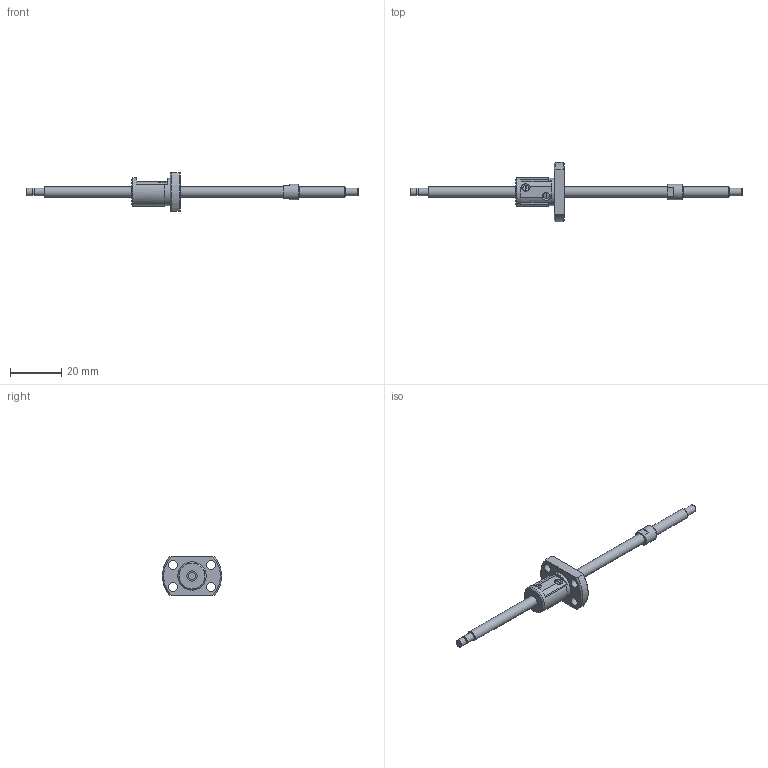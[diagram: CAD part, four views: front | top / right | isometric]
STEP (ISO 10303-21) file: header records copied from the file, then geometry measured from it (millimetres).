
FILE_DESCRIPTION(/* description */ ('STEP AP214'),/* implementation_level */ '2;1');
FILE_NAME(/* name */ 'SRT0402-089R129C10B0X(34Processing)',/* time_stamp */ '2026-08-04T17:49:53+02:00',/* author */ ('License CC BY-ND 4.0'),/* organization */ ('CADENAS'),/* preprocessor_version */ 'ST-DEVELOPER v20',/* originating_system */ 'PARTsolutions',/* authorisation */ ' ');
FILE_SCHEMA (('AUTOMOTIVE_DESIGN {1 0 10303 214 3 1 1}'));
Length unit declared in the file: millimetre
Products named in the file (3): SRT0402-089R129C10B0X(34Processing); SRT0402-89R155BCt10Processing7Shaft; SRT0402Nut
Assembly tree (2 placements, depth 2):
  SRT0402-089R129C10B0X(34Processing)
    SRT0402-89R155BCt10Processing7Shaft
    SRT0402Nut
Bounding box: 129 x 22.93 x 15 mm (x, y, z)
Volume: 3801.4 mm3; surface area: 3415.8 mm2
Topology: 2 solids, 2 shells, 66 faces, 162 edges, 107 vertices
Faces by surface type: plane 33, cylinder 20, cone 12, torus 1
Full cylindrical faces by diameter (mm): 1 x2, 2.7 x1, 3 x3, 3.4 x4, 4 x3, 6 x1, 10.6 x1, 11 x1
Entity records: 1851 total; most frequent: CARTESIAN_POINT 349, DIRECTION 308, ORIENTED_EDGE 248, AXIS2_PLACEMENT_3D 133, EDGE_CURVE 124, FACE_BOUND 110, EDGE_LOOP 108, VERTEX_POINT 96
